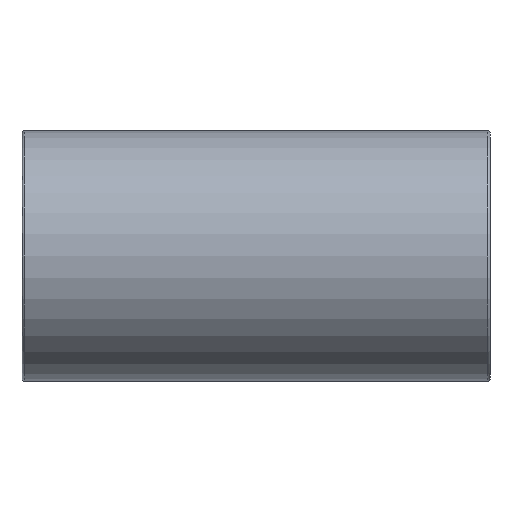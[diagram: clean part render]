
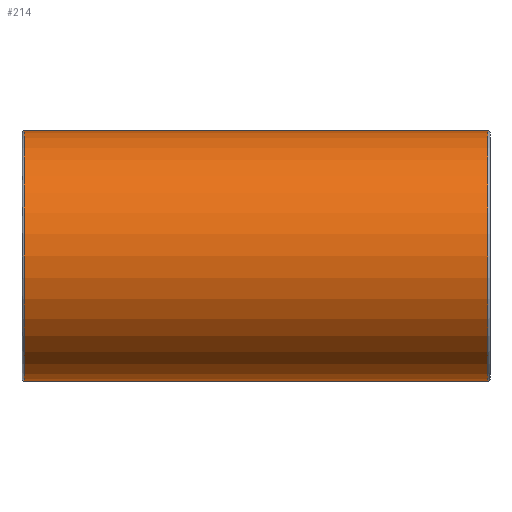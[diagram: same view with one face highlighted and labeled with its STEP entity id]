
A CAD part, front view. The second image highlights one B-rep face of the part: STEP entity #214.
In plain terms, the highlighted cylindrical face has radius 38.5 mm (diameter 77 mm), a full revolution.
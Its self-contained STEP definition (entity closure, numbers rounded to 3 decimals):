
#27=B_SPLINE_CURVE_WITH_KNOTS('',3,(#355,#356,#357,#358,#359,#360,#361,
#362,#363,#364,#365,#366,#367,#368,#369,#370,#371,#372,#373,#374,#375,#376,
#377,#378,#379,#380,#381,#382,#383,#384,#385,#386,#387,#388,#389,#390,#391,
#392,#393,#394,#395,#396,#397,#398,#399,#400,#401,#402,#403,#404,#405,#406,
#407,#408,#409,#410,#411,#412,#413,#414,#415,#416,#417,#418,#419,#420),
 .UNSPECIFIED.,.T.,.F.,(4,2,2,2,2,2,2,2,2,2,2,2,2,2,2,2,2,2,2,2,2,2,2,2,
2,2,2,2,2,2,2,2,4),(0.,0.624,1.247,1.871,
2.494,3.099,3.705,4.31,4.915,
5.52,6.126,6.731,7.336,7.96,
8.583,9.207,9.83,10.454,11.077,
11.701,12.324,12.93,13.535,14.14,
14.745,15.351,15.956,16.561,17.167,
17.79,18.414,19.037,19.661),
 .UNSPECIFIED.);
#29=FACE_BOUND('',#70,.T.);
#30=FACE_BOUND('',#71,.T.);
#50=FACE_OUTER_BOUND('',#69,.T.);
#69=EDGE_LOOP('',(#167));
#70=EDGE_LOOP('',(#168));
#71=EDGE_LOOP('',(#169));
#109=CIRCLE('',#236,38.5);
#110=CIRCLE('',#237,38.5);
#127=VERTEX_POINT('',#350);
#128=VERTEX_POINT('',#352);
#129=VERTEX_POINT('',#354);
#147=EDGE_CURVE('',#127,#127,#109,.T.);
#148=EDGE_CURVE('',#128,#128,#110,.T.);
#149=EDGE_CURVE('',#129,#129,#27,.T.);
#167=ORIENTED_EDGE('',*,*,#147,.F.);
#168=ORIENTED_EDGE('',*,*,#148,.F.);
#169=ORIENTED_EDGE('',*,*,#149,.F.);
#207=CYLINDRICAL_SURFACE('',#235,38.5);
#214=ADVANCED_FACE('',(#50,#29,#30),#207,.T.);
#235=AXIS2_PLACEMENT_3D('',#349,#274,#275);
#236=AXIS2_PLACEMENT_3D('',#351,#276,#277);
#237=AXIS2_PLACEMENT_3D('',#353,#278,#279);
#274=DIRECTION('center_axis',(1.,0.,0.));
#275=DIRECTION('ref_axis',(0.,1.,0.));
#276=DIRECTION('center_axis',(-1.,0.,0.));
#277=DIRECTION('ref_axis',(0.,-1.,0.));
#278=DIRECTION('center_axis',(1.,0.,0.));
#279=DIRECTION('ref_axis',(0.,-1.,0.));
#349=CARTESIAN_POINT('Origin',(0.,0.,
0.));
#350=CARTESIAN_POINT('',(-71.37,38.5,0.));
#351=CARTESIAN_POINT('Origin',(-71.37,0.,0.));
#352=CARTESIAN_POINT('',(71.37,38.5,0.));
#353=CARTESIAN_POINT('Origin',(71.37,0.,0.));
#354=CARTESIAN_POINT('',(0.,23.495,30.5));
#355=CARTESIAN_POINT('Ctrl Pts',(0.,23.495,
30.5));
#356=CARTESIAN_POINT('Ctrl Pts',(2.078,23.495,30.5));
#357=CARTESIAN_POINT('Ctrl Pts',(4.144,23.779,30.286));
#358=CARTESIAN_POINT('Ctrl Pts',(8.149,24.792,29.462));
#359=CARTESIAN_POINT('Ctrl Pts',(10.089,25.517,28.852));
#360=CARTESIAN_POINT('Ctrl Pts',(13.773,27.185,27.286));
#361=CARTESIAN_POINT('Ctrl Pts',(15.52,28.127,26.329));
#362=CARTESIAN_POINT('Ctrl Pts',(18.754,30.033,24.132));
#363=CARTESIAN_POINT('Ctrl Pts',(20.241,30.996,22.893));
#364=CARTESIAN_POINT('Ctrl Pts',(22.854,32.763,20.28));
#365=CARTESIAN_POINT('Ctrl Pts',(24.084,33.638,18.815));
#366=CARTESIAN_POINT('Ctrl Pts',(26.29,35.25,15.586));
#367=CARTESIAN_POINT('Ctrl Pts',(27.265,35.988,13.82));
#368=CARTESIAN_POINT('Ctrl Pts',(28.857,37.208,10.083));
#369=CARTESIAN_POINT('Ctrl Pts',(29.475,37.692,8.107));
#370=CARTESIAN_POINT('Ctrl Pts',(30.297,38.338,4.074));
#371=CARTESIAN_POINT('Ctrl Pts',(30.5,38.5,2.018));
#372=CARTESIAN_POINT('Ctrl Pts',(30.5,38.5,-2.018));
#373=CARTESIAN_POINT('Ctrl Pts',(30.297,38.338,-4.074));
#374=CARTESIAN_POINT('Ctrl Pts',(29.475,37.692,-8.107));
#375=CARTESIAN_POINT('Ctrl Pts',(28.857,37.208,-10.083));
#376=CARTESIAN_POINT('Ctrl Pts',(27.265,35.988,-13.82));
#377=CARTESIAN_POINT('Ctrl Pts',(26.29,35.25,-15.586));
#378=CARTESIAN_POINT('Ctrl Pts',(24.084,33.638,-18.815));
#379=CARTESIAN_POINT('Ctrl Pts',(22.854,32.763,-20.28));
#380=CARTESIAN_POINT('Ctrl Pts',(20.241,30.996,-22.893));
#381=CARTESIAN_POINT('Ctrl Pts',(18.754,30.033,-24.132));
#382=CARTESIAN_POINT('Ctrl Pts',(15.52,28.127,-26.329));
#383=CARTESIAN_POINT('Ctrl Pts',(13.773,27.185,-27.286));
#384=CARTESIAN_POINT('Ctrl Pts',(10.089,25.517,-28.852));
#385=CARTESIAN_POINT('Ctrl Pts',(8.149,24.792,-29.462));
#386=CARTESIAN_POINT('Ctrl Pts',(4.144,23.779,-30.286));
#387=CARTESIAN_POINT('Ctrl Pts',(2.078,23.495,-30.5));
#388=CARTESIAN_POINT('Ctrl Pts',(-2.078,23.495,-30.5));
#389=CARTESIAN_POINT('Ctrl Pts',(-4.144,23.779,-30.286));
#390=CARTESIAN_POINT('Ctrl Pts',(-8.149,24.792,-29.462));
#391=CARTESIAN_POINT('Ctrl Pts',(-10.089,25.517,-28.852));
#392=CARTESIAN_POINT('Ctrl Pts',(-13.773,27.185,-27.286));
#393=CARTESIAN_POINT('Ctrl Pts',(-15.52,28.127,-26.329));
#394=CARTESIAN_POINT('Ctrl Pts',(-18.754,30.033,-24.132));
#395=CARTESIAN_POINT('Ctrl Pts',(-20.241,30.996,-22.893));
#396=CARTESIAN_POINT('Ctrl Pts',(-22.854,32.763,-20.28));
#397=CARTESIAN_POINT('Ctrl Pts',(-24.084,33.638,-18.815));
#398=CARTESIAN_POINT('Ctrl Pts',(-26.29,35.25,-15.586));
#399=CARTESIAN_POINT('Ctrl Pts',(-27.265,35.988,-13.82));
#400=CARTESIAN_POINT('Ctrl Pts',(-28.857,37.208,-10.083));
#401=CARTESIAN_POINT('Ctrl Pts',(-29.475,37.692,-8.107));
#402=CARTESIAN_POINT('Ctrl Pts',(-30.297,38.338,-4.074));
#403=CARTESIAN_POINT('Ctrl Pts',(-30.5,38.5,-2.018));
#404=CARTESIAN_POINT('Ctrl Pts',(-30.5,38.5,2.018));
#405=CARTESIAN_POINT('Ctrl Pts',(-30.297,38.338,4.074));
#406=CARTESIAN_POINT('Ctrl Pts',(-29.475,37.692,8.107));
#407=CARTESIAN_POINT('Ctrl Pts',(-28.857,37.208,10.083));
#408=CARTESIAN_POINT('Ctrl Pts',(-27.265,35.988,13.82));
#409=CARTESIAN_POINT('Ctrl Pts',(-26.29,35.25,15.586));
#410=CARTESIAN_POINT('Ctrl Pts',(-24.084,33.638,18.815));
#411=CARTESIAN_POINT('Ctrl Pts',(-22.854,32.763,20.28));
#412=CARTESIAN_POINT('Ctrl Pts',(-20.241,30.996,22.893));
#413=CARTESIAN_POINT('Ctrl Pts',(-18.754,30.033,24.132));
#414=CARTESIAN_POINT('Ctrl Pts',(-15.52,28.127,26.329));
#415=CARTESIAN_POINT('Ctrl Pts',(-13.773,27.185,27.286));
#416=CARTESIAN_POINT('Ctrl Pts',(-10.089,25.517,28.852));
#417=CARTESIAN_POINT('Ctrl Pts',(-8.149,24.792,29.462));
#418=CARTESIAN_POINT('Ctrl Pts',(-4.144,23.779,30.286));
#419=CARTESIAN_POINT('Ctrl Pts',(-2.078,23.495,30.5));
#420=CARTESIAN_POINT('Ctrl Pts',(0.,23.495,30.5));
